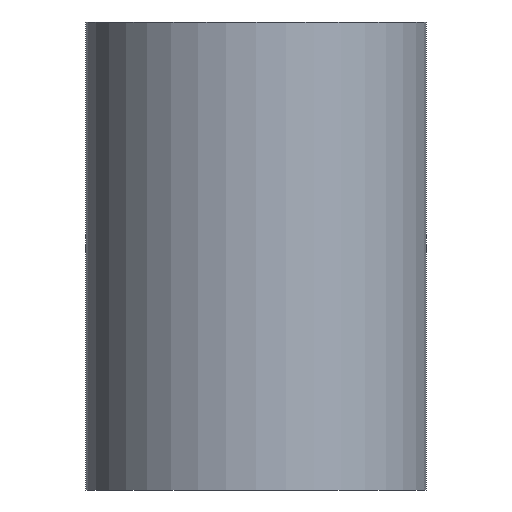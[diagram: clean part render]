
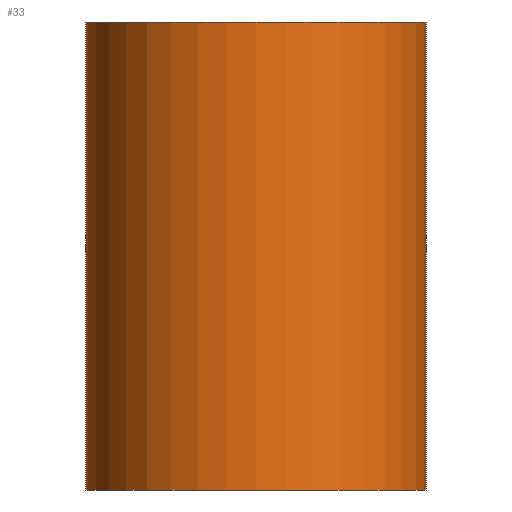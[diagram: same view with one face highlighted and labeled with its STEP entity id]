
A CAD part, front view. The second image highlights one B-rep face of the part: STEP entity #33.
In plain terms, the highlighted cylindrical face has radius 10 mm (diameter 20 mm), a partial arc.
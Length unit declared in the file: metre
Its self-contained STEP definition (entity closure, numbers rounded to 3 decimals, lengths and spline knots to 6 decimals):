
#33=ADVANCED_FACE('',(#63),#64,.T.);
#63=FACE_OUTER_BOUND('',#90,.T.);
#64=CYLINDRICAL_SURFACE('',#91,0.01);
#90=EDGE_LOOP('',(#112,#113,#114,#115));
#91=AXIS2_PLACEMENT_3D('',#116,#117,#118);
#112=ORIENTED_EDGE('',*,*,#161,.F.);
#113=ORIENTED_EDGE('',*,*,#162,.F.);
#114=ORIENTED_EDGE('',*,*,#163,.F.);
#115=ORIENTED_EDGE('',*,*,#164,.T.);
#116=CARTESIAN_POINT('',(-0.003641,0.009626,0.0));
#117=DIRECTION('',(0.0,0.0,-1.0));
#118=DIRECTION('',(1.0,0.0,0.0));
#161=EDGE_CURVE('',#180,#181,#182,.T.);
#162=EDGE_CURVE('',#183,#180,#184,.T.);
#163=EDGE_CURVE('',#185,#183,#186,.T.);
#164=EDGE_CURVE('',#185,#181,#187,.T.);
#180=VERTEX_POINT('',#207);
#181=VERTEX_POINT('',#208);
#182=LINE('',#209,#210);
#183=VERTEX_POINT('',#211);
#184=CIRCLE('',#212,0.01);
#185=VERTEX_POINT('',#213);
#186=LINE('',#214,#215);
#187=CIRCLE('',#216,0.01);
#207=CARTESIAN_POINT('',(0.006359,0.009626,0.0));
#208=CARTESIAN_POINT('',(0.006359,0.009626,-0.0275));
#209=CARTESIAN_POINT('',(0.006359,0.009626,0.0));
#210=VECTOR('',#236,1.0);
#211=CARTESIAN_POINT('',(-0.013641,0.009626,0.0));
#212=AXIS2_PLACEMENT_3D('',#237,#238,#239);
#213=CARTESIAN_POINT('',(-0.013641,0.009626,-0.0275));
#214=CARTESIAN_POINT('',(-0.013641,0.009626,0.0));
#215=VECTOR('',#240,1.0);
#216=AXIS2_PLACEMENT_3D('',#241,#242,#243);
#236=DIRECTION('',(0.0,0.0,-1.0));
#237=CARTESIAN_POINT('',(-0.003641,0.009626,0.0));
#238=DIRECTION('',(0.0,0.0,1.0));
#239=DIRECTION('',(1.0,0.0,-0.0));
#240=DIRECTION('',(0.0,0.0,1.0));
#241=CARTESIAN_POINT('',(-0.003641,0.009626,-0.0275));
#242=DIRECTION('',(0.0,0.0,1.0));
#243=DIRECTION('',(1.0,0.0,0.0));
